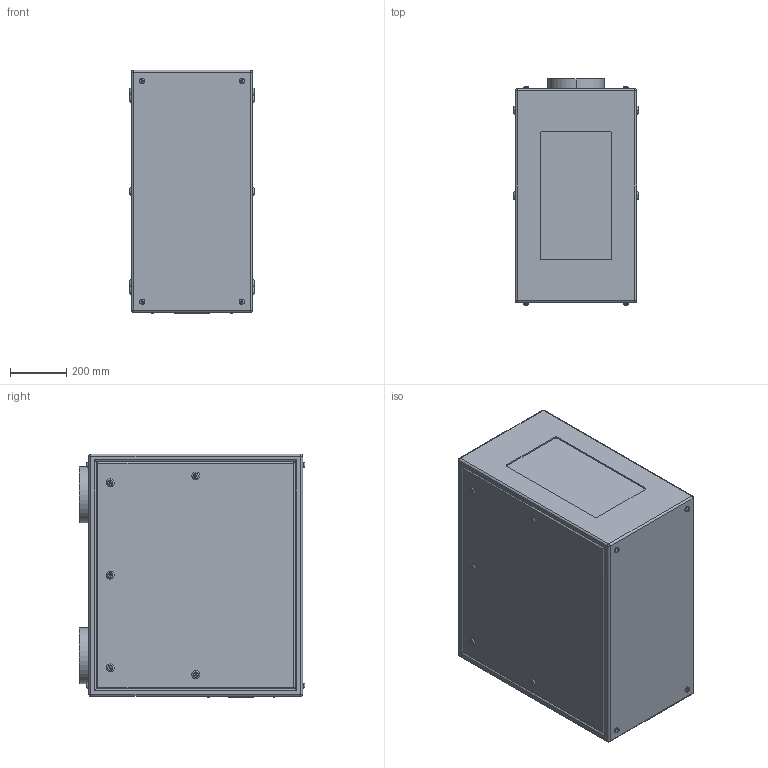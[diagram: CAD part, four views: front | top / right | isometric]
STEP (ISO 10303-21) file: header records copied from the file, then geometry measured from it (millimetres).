
FILE_DESCRIPTION (( 'STEP AP214' ), '1' );
FILE_NAME ('Tacit 56.100.P R07.STEP', '2022-09-11T22:45:42', ( '' ), ( '' ), 'SwSTEP 2.0', 'SolidWorks 2020', '' );
FILE_SCHEMA (( 'AUTOMOTIVE_DESIGN' ));
Length unit declared in the file: inch
Products named in the file (1): Tacit 56.100.P R07
Bounding box: 444.5 x 805.05 x 868.68 mm (x, y, z)
Volume: 283151522.1 mm3; surface area: 3112625.8 mm2
Topology: 1 solids, 5 shells, 443 faces, 988 edges, 624 vertices
Faces by surface type: plane 235, cylinder 152, torus 48, sphere 8
Entity records: 15597 total; most frequent: DIRECTION 2220, CARTESIAN_POINT 2096, ORIENTED_EDGE 1960, EDGE_CURVE 980, AXIS2_PLACEMENT_3D 812, VERTEX_POINT 624, LINE 596, VECTOR 596
